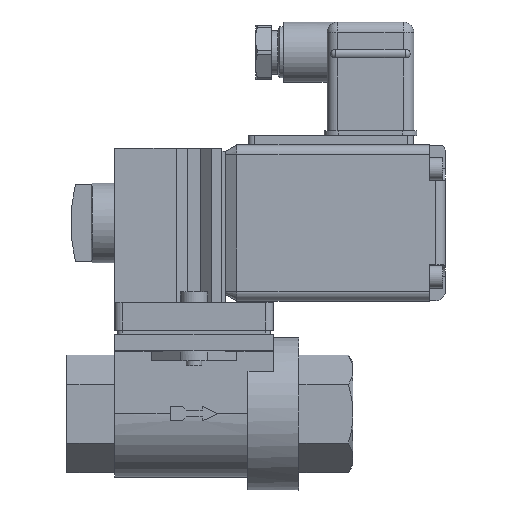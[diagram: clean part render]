
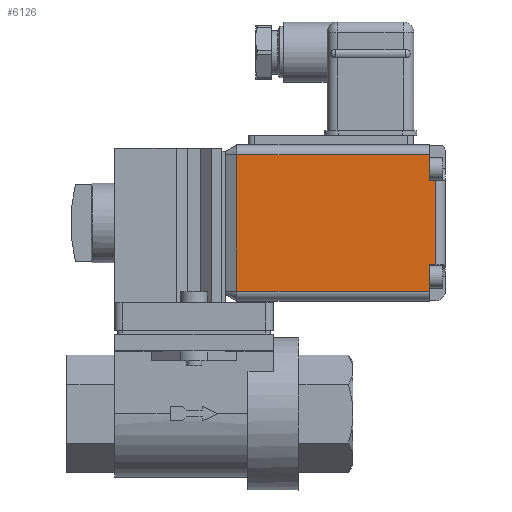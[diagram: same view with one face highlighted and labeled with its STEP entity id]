
A CAD part, top view. The second image highlights one B-rep face of the part: STEP entity #6126.
In plain terms, the highlighted planar face has unit normal (0, 0, 1).
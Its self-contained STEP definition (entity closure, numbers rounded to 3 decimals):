
#113=PLANE('',#6471);
#265=LINE('',#8126,#666);
#272=LINE('',#8157,#673);
#379=LINE('',#8652,#780);
#380=LINE('',#8655,#781);
#381=LINE('',#8657,#782);
#382=LINE('',#8658,#783);
#383=LINE('',#8659,#784);
#384=LINE('',#8661,#785);
#666=VECTOR('',#6818,1000.);
#673=VECTOR('',#6845,1000.);
#780=VECTOR('',#7154,1000.);
#781=VECTOR('',#7155,1000.);
#782=VECTOR('',#7156,1000.);
#783=VECTOR('',#7157,1000.);
#784=VECTOR('',#7158,1000.);
#785=VECTOR('',#7159,1000.);
#1315=ORIENTED_EDGE('',*,*,#2542,.F.);
#1316=ORIENTED_EDGE('',*,*,#2543,.T.);
#1317=ORIENTED_EDGE('',*,*,#2544,.F.);
#1318=ORIENTED_EDGE('',*,*,#2342,.T.);
#1319=ORIENTED_EDGE('',*,*,#2545,.T.);
#1320=ORIENTED_EDGE('',*,*,#2328,.F.);
#1321=ORIENTED_EDGE('',*,*,#2546,.F.);
#1322=ORIENTED_EDGE('',*,*,#2547,.T.);
#2328=EDGE_CURVE('',#2957,#2959,#265,.T.);
#2342=EDGE_CURVE('',#2970,#2972,#272,.T.);
#2542=EDGE_CURVE('',#3139,#3140,#379,.T.);
#2543=EDGE_CURVE('',#3139,#3141,#380,.T.);
#2544=EDGE_CURVE('',#2970,#3141,#381,.T.);
#2545=EDGE_CURVE('',#2972,#2959,#382,.T.);
#2546=EDGE_CURVE('',#3142,#2957,#383,.T.);
#2547=EDGE_CURVE('',#3142,#3140,#384,.T.);
#2957=VERTEX_POINT('',#8124);
#2959=VERTEX_POINT('',#8127);
#2970=VERTEX_POINT('',#8152);
#2972=VERTEX_POINT('',#8156);
#3139=VERTEX_POINT('',#8653);
#3140=VERTEX_POINT('',#8654);
#3141=VERTEX_POINT('',#8656);
#3142=VERTEX_POINT('',#8660);
#3597=EDGE_LOOP('',(#1315,#1316,#1317,#1318,#1319,#1320,#1321,#1322));
#3912=FACE_BOUND('',#3597,.T.);
#6126=ADVANCED_FACE('',(#3912),#113,.F.);
#6471=AXIS2_PLACEMENT_3D('',#8651,#7152,#7153);
#6818=DIRECTION('',(-1.,0.,0.));
#6845=DIRECTION('',(-1.,0.,0.));
#7152=DIRECTION('',(0.,0.,-1.));
#7153=DIRECTION('',(-1.,0.,0.));
#7154=DIRECTION('',(0.,-1.,0.));
#7155=DIRECTION('',(-1.,0.,0.));
#7156=DIRECTION('',(0.,-1.,0.));
#7157=DIRECTION('',(0.,-1.,0.));
#7158=DIRECTION('',(0.,-1.,0.));
#7159=DIRECTION('',(1.,0.,0.));
#8124=CARTESIAN_POINT('',(74.,13.5,24.5));
#8126=CARTESIAN_POINT('',(79.,13.5,24.5));
#8127=CARTESIAN_POINT('',(13.5,13.5,24.5));
#8152=CARTESIAN_POINT('',(74.,56.5,24.5));
#8156=CARTESIAN_POINT('',(13.5,56.5,24.5));
#8157=CARTESIAN_POINT('',(79.,56.5,24.5));
#8651=CARTESIAN_POINT('',(79.,56.5,24.5));
#8652=CARTESIAN_POINT('',(76.,65.,24.5));
#8653=CARTESIAN_POINT('',(76.,48.25,24.5));
#8654=CARTESIAN_POINT('',(76.,21.75,24.5));
#8655=CARTESIAN_POINT('',(79.,48.25,24.5));
#8656=CARTESIAN_POINT('',(74.,48.25,24.5));
#8657=CARTESIAN_POINT('',(74.,56.5,24.5));
#8658=CARTESIAN_POINT('',(13.5,56.5,24.5));
#8659=CARTESIAN_POINT('',(74.,56.5,24.5));
#8660=CARTESIAN_POINT('',(74.,21.75,24.5));
#8661=CARTESIAN_POINT('',(79.,21.75,24.5));
